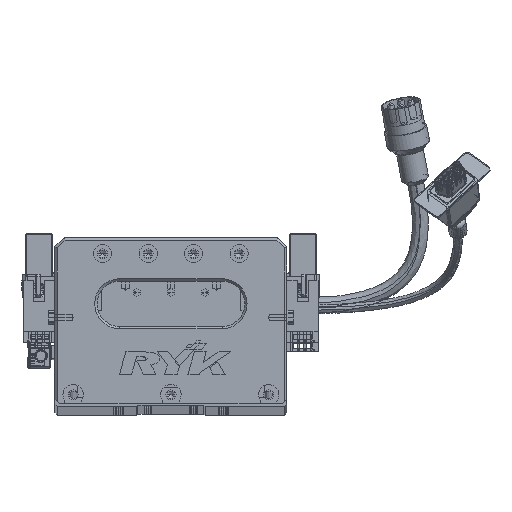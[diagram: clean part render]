
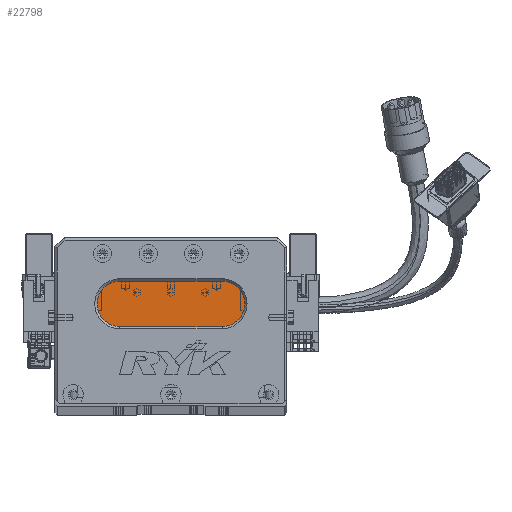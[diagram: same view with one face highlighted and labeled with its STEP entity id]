
A CAD part, top view. The second image highlights one B-rep face of the part: STEP entity #22798.
In plain terms, the highlighted planar face has unit normal (0, 0, 1) as drawn and (0, 0, -1) by its records, which use the part's own axes.
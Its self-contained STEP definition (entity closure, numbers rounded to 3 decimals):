
#1482 = CARTESIAN_POINT ( 'NONE',  ( 73.5, 34., 13. ) ) ;
#2080 = DIRECTION ( 'NONE',  ( 1., 0., 0. ) ) ;
#2848 = DIRECTION ( 'NONE',  ( 0., 0., -1. ) ) ;
#7112 = CIRCLE ( 'NONE', #7472, 10. ) ;
#7472 = AXIS2_PLACEMENT_3D ( 'NONE', #16732, #61664, #74430 ) ;
#8573 = EDGE_CURVE ( 'NONE', #81394, #22372, #7112, .T. ) ;
#8993 = VERTEX_POINT ( 'NONE', #27655 ) ;
#10086 = PLANE ( 'NONE',  #29983 ) ;
#16079 = DIRECTION ( 'NONE',  ( -1., 0., 0. ) ) ;
#16732 = CARTESIAN_POINT ( 'NONE',  ( 28.5, 44., 13. ) ) ;
#19591 = CIRCLE ( 'NONE', #40003, 10. ) ;
#21714 = CARTESIAN_POINT ( 'NONE',  ( 73.5, 44., 13. ) ) ;
#22372 = VERTEX_POINT ( 'NONE', #37586 ) ;
#22798 = ADVANCED_FACE ( 'NONE', ( #60444 ), #10086, .T. ) ;
#23921 = LINE ( 'NONE', #79014, #67453 ) ;
#27655 = CARTESIAN_POINT ( 'NONE',  ( 73.5, 54., 13. ) ) ;
#28005 = DIRECTION ( 'NONE',  ( -1., 0., 0. ) ) ;
#28572 = CARTESIAN_POINT ( 'NONE',  ( 73.5, 44., 13. ) ) ;
#29983 = AXIS2_PLACEMENT_3D ( 'NONE', #21714, #54756, #16079 ) ;
#34024 = CARTESIAN_POINT ( 'NONE',  ( 73.5, 34., 13. ) ) ;
#34183 = ORIENTED_EDGE ( 'NONE', *, *, #36678, .T. ) ;
#35043 = EDGE_CURVE ( 'NONE', #50031, #81394, #48483, .T. ) ;
#36526 = ORIENTED_EDGE ( 'NONE', *, *, #83415, .T. ) ;
#36678 = EDGE_CURVE ( 'NONE', #48628, #8993, #23921, .T. ) ;
#37586 = CARTESIAN_POINT ( 'NONE',  ( 18.5, 44., 13. ) ) ;
#40003 = AXIS2_PLACEMENT_3D ( 'NONE', #41781, #62151, #61333 ) ;
#41781 = CARTESIAN_POINT ( 'NONE',  ( 28.5, 44., 13. ) ) ;
#47487 = ORIENTED_EDGE ( 'NONE', *, *, #35043, .T. ) ;
#48483 = LINE ( 'NONE', #34024, #80913 ) ;
#48628 = VERTEX_POINT ( 'NONE', #65304 ) ;
#50031 = VERTEX_POINT ( 'NONE', #1482 ) ;
#52433 = AXIS2_PLACEMENT_3D ( 'NONE', #28572, #2848, #28005 ) ;
#54756 = DIRECTION ( 'NONE',  ( 0., 0., -1. ) ) ;
#60444 = FACE_OUTER_BOUND ( 'NONE', #61865, .T. ) ;
#60965 = EDGE_CURVE ( 'NONE', #22372, #48628, #19591, .T. ) ;
#61333 = DIRECTION ( 'NONE',  ( -1., 0., 0. ) ) ;
#61664 = DIRECTION ( 'NONE',  ( 0., 0., -1. ) ) ;
#61865 = EDGE_LOOP ( 'NONE', ( #36526, #47487, #64697, #78589, #34183 ) ) ;
#62151 = DIRECTION ( 'NONE',  ( 0., 0., -1. ) ) ;
#64697 = ORIENTED_EDGE ( 'NONE', *, *, #8573, .T. ) ;
#65304 = CARTESIAN_POINT ( 'NONE',  ( 28.5, 54., 13. ) ) ;
#66579 = DIRECTION ( 'NONE',  ( -1., 0., 0. ) ) ;
#67453 = VECTOR ( 'NONE', #2080, 1000. ) ;
#70073 = CARTESIAN_POINT ( 'NONE',  ( 28.5, 34., 13. ) ) ;
#74430 = DIRECTION ( 'NONE',  ( -1., 0., 0. ) ) ;
#77040 = CIRCLE ( 'NONE', #52433, 10. ) ;
#78589 = ORIENTED_EDGE ( 'NONE', *, *, #60965, .T. ) ;
#79014 = CARTESIAN_POINT ( 'NONE',  ( 73.5, 54., 13. ) ) ;
#80913 = VECTOR ( 'NONE', #66579, 1000. ) ;
#81394 = VERTEX_POINT ( 'NONE', #70073 ) ;
#83415 = EDGE_CURVE ( 'NONE', #8993, #50031, #77040, .T. ) ;
